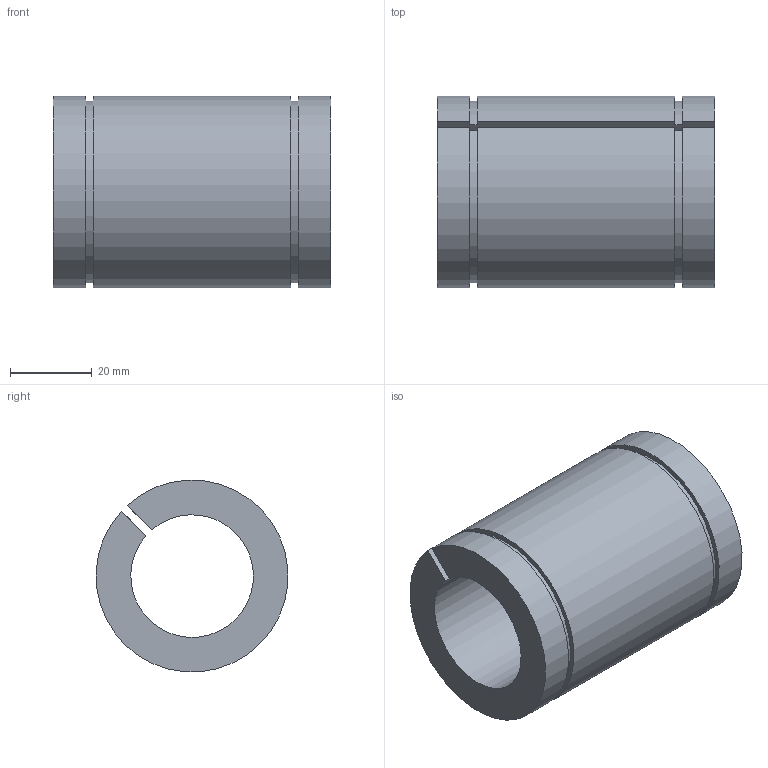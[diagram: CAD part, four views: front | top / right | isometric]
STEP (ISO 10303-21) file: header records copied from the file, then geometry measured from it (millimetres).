
FILE_DESCRIPTION( ( 'STEP AP203' ), '1' );
FILE_NAME( 'p:/temp/worker_97/temp/exporttempdir_3024_782_u8NXy/format_0/LME30UU-AJ.stp', '2020-04-29T03:23:59', ( 'License CC BY-ND 4.0' ), ( 'CADENAS' ), ' ', 'PARTsolutions', ' ' );
FILE_SCHEMA( ( 'CONFIG_CONTROL_DESIGN' ) );
Length unit declared in the file: millimetre
Products named in the file (1): _LME30UU-AJ
Bounding box: 68 x 46.9 x 46.9 mm (x, y, z)
Volume: 68097.8 mm3; surface area: 20027.4 mm2
Topology: 1 solids, 1 shells, 14 faces, 36 edges, 24 vertices
Faces by surface type: plane 8, cylinder 6
Entity records: 476 total; most frequent: DIRECTION 78, CARTESIAN_POINT 75, ORIENTED_EDGE 72, EDGE_CURVE 36, AXIS2_PLACEMENT_3D 27, VERTEX_POINT 24, LINE 24, VECTOR 24
